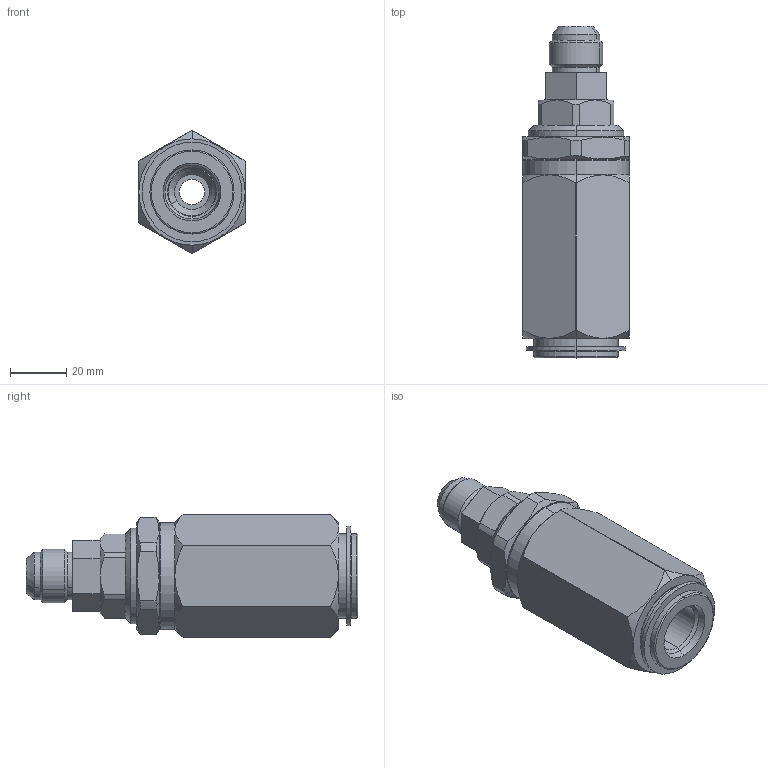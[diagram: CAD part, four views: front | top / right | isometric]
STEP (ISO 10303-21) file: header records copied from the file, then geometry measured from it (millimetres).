
FILE_DESCRIPTION (( 'STEP AP214' ), '1' );
FILE_NAME ('VRV34002.STEP', '2025-06-03T23:11:22', ( '' ), ( '' ), 'SwSTEP 2.0', 'SolidWorks 2023', '' );
FILE_SCHEMA (( 'AUTOMOTIVE_DESIGN' ));
Length unit declared in the file: millimetre
Products named in the file (1): VRV34002
Bounding box: 38.1 x 118.4 x 43.88 mm (x, y, z)
Surface area: 20570.4 mm2 (no closed solid volume)
Topology: 0 solids, 7 shells, 112 faces, 279 edges, 174 vertices
Faces by surface type: plane 39, cylinder 38, cone 29, torus 6
Entity records: 3691 total; most frequent: CARTESIAN_POINT 994, DIRECTION 607, ORIENTED_EDGE 514, EDGE_CURVE 279, AXIS2_PLACEMENT_3D 251, VERTEX_POINT 174, CIRCLE 138, EDGE_LOOP 121
